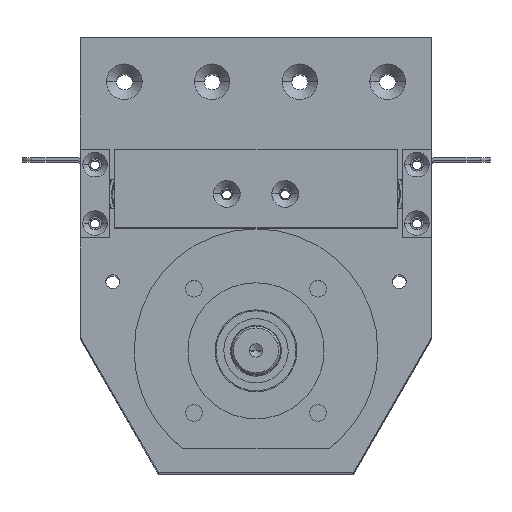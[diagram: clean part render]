
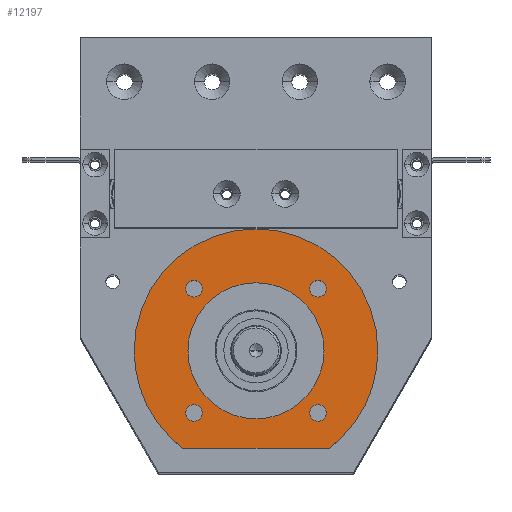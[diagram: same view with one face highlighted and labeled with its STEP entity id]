
A CAD part, top view. The second image highlights one B-rep face of the part: STEP entity #12197.
In plain terms, the highlighted planar face has unit normal (0, 0, 1) as drawn and (-1, 0, 0) by its records, which use the part's own axes.
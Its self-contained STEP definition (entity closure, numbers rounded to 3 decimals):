
#2561 = EDGE_LOOP ( 'NONE', ( #19543, #19545 ) ) ;
#2657 = EDGE_LOOP ( 'NONE', ( #19547, #19549 ) ) ;
#3024 = EDGE_LOOP ( 'NONE', ( #19551, #19553 ) ) ;
#4236 = EDGE_CURVE ( 'NONE', #8213, #9107, #17027, .T. ) ;
#4243 = EDGE_CURVE ( 'NONE', #8945, #16570, #17043, .T. ) ;
#4252 = EDGE_CURVE ( 'NONE', #5598, #9162, #17462, .T. ) ;
#4261 = EDGE_CURVE ( 'NONE', #5629, #9217, #17452, .T. ) ;
#4327 = EDGE_CURVE ( 'NONE', #9075, #5580, #17422, .T. ) ;
#4341 = EDGE_CURVE ( 'NONE', #5650, #8650, #17408, .T. ) ;
#4348 = EDGE_CURVE ( 'NONE', #7459, #5650, #17383, .T. ) ;
#4405 = EDGE_CURVE ( 'NONE', #8650, #9213, #17500, .T. ) ;
#4408 = EDGE_CURVE ( 'NONE', #9107, #8213, #17509, .T. ) ;
#4409 = EDGE_CURVE ( 'NONE', #16570, #8945, #17499, .T. ) ;
#4411 = EDGE_CURVE ( 'NONE', #9162, #5598, #17508, .T. ) ;
#4414 = EDGE_CURVE ( 'NONE', #9217, #5629, #17543, .T. ) ;
#4415 = EDGE_CURVE ( 'NONE', #5580, #9075, #17511, .T. ) ;
#4416 = EDGE_CURVE ( 'NONE', #7459, #9213, #4825, .T. ) ;
#4429 = CARTESIAN_POINT ( 'NONE',  ( 2., -31.82, -31.82 ) ) ;
#4431 = DIRECTION ( 'NONE',  ( 1., 0., 0. ) ) ;
#4433 = DIRECTION ( 'NONE',  ( 0., 0., -1. ) ) ;
#4450 = CARTESIAN_POINT ( 'NONE',  ( 2., -31.82, 31.82 ) ) ;
#4452 = DIRECTION ( 'NONE',  ( 1., 0., 0. ) ) ;
#4453 = DIRECTION ( 'NONE',  ( 0., 0., -1. ) ) ;
#4475 = CARTESIAN_POINT ( 'NONE',  ( 2., 31.82, 31.82 ) ) ;
#4477 = DIRECTION ( 'NONE',  ( 1., 0., 0. ) ) ;
#4479 = DIRECTION ( 'NONE',  ( 0., 0., -1. ) ) ;
#4501 = CARTESIAN_POINT ( 'NONE',  ( 2., 31.82, -31.82 ) ) ;
#4503 = DIRECTION ( 'NONE',  ( 1., 0., 0. ) ) ;
#4504 = DIRECTION ( 'NONE',  ( 0., 0., -1. ) ) ;
#4711 = CARTESIAN_POINT ( 'NONE',  ( 2., 0., 0. ) ) ;
#4712 = DIRECTION ( 'NONE',  ( -1., 0., 0. ) ) ;
#4713 = DIRECTION ( 'NONE',  ( 0., 0., 1. ) ) ;
#4728 = CARTESIAN_POINT ( 'NONE',  ( 2., 0., 0. ) ) ;
#4729 = DIRECTION ( 'NONE',  ( -1., 0., 0. ) ) ;
#4730 = DIRECTION ( 'NONE',  ( 0., 0., 1. ) ) ;
#4738 = CARTESIAN_POINT ( 'NONE',  ( 2., 0., 0. ) ) ;
#4739 = DIRECTION ( 'NONE',  ( -1., 0., 0. ) ) ;
#4740 = DIRECTION ( 'NONE',  ( 0., 0., 1. ) ) ;
#4813 = CARTESIAN_POINT ( 'NONE',  ( 2., 0., 0. ) ) ;
#4814 = DIRECTION ( 'NONE',  ( -1., 0., 0. ) ) ;
#4815 = DIRECTION ( 'NONE',  ( 0., 0., 1. ) ) ;
#4816 = CARTESIAN_POINT ( 'NONE',  ( 2., -31.82, -31.82 ) ) ;
#4817 = DIRECTION ( 'NONE',  ( 1., 0., 0. ) ) ;
#4818 = DIRECTION ( 'NONE',  ( 0., 0., -1. ) ) ;
#4819 = CARTESIAN_POINT ( 'NONE',  ( 2., -31.82, 31.82 ) ) ;
#4820 = DIRECTION ( 'NONE',  ( 1., 0., 0. ) ) ;
#4821 = DIRECTION ( 'NONE',  ( 0., 0., -1. ) ) ;
#4822 = CARTESIAN_POINT ( 'NONE',  ( 2., 31.82, 31.82 ) ) ;
#4823 = DIRECTION ( 'NONE',  ( 1., 0., 0. ) ) ;
#4824 = DIRECTION ( 'NONE',  ( 0., 0., -1. ) ) ;
#4825 = LINE ( 'NONE', #4826, #17590 ) ;
#4826 = CARTESIAN_POINT ( 'NONE',  ( 2., -50., 37.5 ) ) ;
#4827 = CARTESIAN_POINT ( 'NONE',  ( 2., 31.82, -31.82 ) ) ;
#4828 = DIRECTION ( 'NONE',  ( 1., 0., 0. ) ) ;
#4829 = DIRECTION ( 'NONE',  ( 0., 0., -1. ) ) ;
#4830 = CARTESIAN_POINT ( 'NONE',  ( 2., 0., 0. ) ) ;
#4831 = DIRECTION ( 'NONE',  ( -1., 0., 0. ) ) ;
#4832 = DIRECTION ( 'NONE',  ( 0., 0., 1. ) ) ;
#4833 = DIRECTION ( 'NONE',  ( 0., 0., -1. ) ) ;
#5580 = VERTEX_POINT ( 'NONE', #10930 ) ;
#5598 = VERTEX_POINT ( 'NONE', #10946 ) ;
#5629 = VERTEX_POINT ( 'NONE', #10977 ) ;
#5650 = VERTEX_POINT ( 'NONE', #10998 ) ;
#7459 = VERTEX_POINT ( 'NONE', #11230 ) ;
#7556 = EDGE_LOOP ( 'NONE', ( #19555, #19557, #19559, #19561 ) ) ;
#7855 = EDGE_LOOP ( 'NONE', ( #19539, #19541 ) ) ;
#8213 = VERTEX_POINT ( 'NONE', #11275 ) ;
#8650 = VERTEX_POINT ( 'NONE', #11297 ) ;
#8945 = VERTEX_POINT ( 'NONE', #11326 ) ;
#9075 = VERTEX_POINT ( 'NONE', #11363 ) ;
#9107 = VERTEX_POINT ( 'NONE', #11365 ) ;
#9162 = VERTEX_POINT ( 'NONE', #11378 ) ;
#9213 = VERTEX_POINT ( 'NONE', #11389 ) ;
#9216 = EDGE_LOOP ( 'NONE', ( #19535, #19537 ) ) ;
#9217 = VERTEX_POINT ( 'NONE', #11390 ) ;
#10930 = CARTESIAN_POINT ( 'NONE',  ( 2., 0., -34.9 ) ) ;
#10946 = CARTESIAN_POINT ( 'NONE',  ( 2., 31.82, 36.07 ) ) ;
#10977 = CARTESIAN_POINT ( 'NONE',  ( 2., 31.82, -27.57 ) ) ;
#10998 = CARTESIAN_POINT ( 'NONE',  ( 2., 0., 62.5 ) ) ;
#11230 = CARTESIAN_POINT ( 'NONE',  ( 2., -50., 37.5 ) ) ;
#11275 = CARTESIAN_POINT ( 'NONE',  ( 2., -31.82, -27.57 ) ) ;
#11297 = CARTESIAN_POINT ( 'NONE',  ( 2., 0., -62.5 ) ) ;
#11326 = CARTESIAN_POINT ( 'NONE',  ( 2., -31.82, 36.07 ) ) ;
#11363 = CARTESIAN_POINT ( 'NONE',  ( 2., 0., 34.9 ) ) ;
#11365 = CARTESIAN_POINT ( 'NONE',  ( 2., -31.82, -36.07 ) ) ;
#11378 = CARTESIAN_POINT ( 'NONE',  ( 2., 31.82, 27.57 ) ) ;
#11389 = CARTESIAN_POINT ( 'NONE',  ( 2., -50., -37.5 ) ) ;
#11390 = CARTESIAN_POINT ( 'NONE',  ( 2., 31.82, -36.07 ) ) ;
#12197 = ADVANCED_FACE ( 'NONE', ( #18479, #18483, #18485, #18487, #18481, #18482 ), #18489, .F. ) ;
#12407 = AXIS2_PLACEMENT_3D ( 'NONE', #18486, #18490, #18491 ) ;
#16570 = VERTEX_POINT ( 'NONE', #18913 ) ;
#17027 = CIRCLE ( 'NONE', #17082, 4.25 ) ;
#17038 = AXIS2_PLACEMENT_3D ( 'NONE', #4830, #4831, #4832 ) ;
#17043 = CIRCLE ( 'NONE', #17372, 4.25 ) ;
#17082 = AXIS2_PLACEMENT_3D ( 'NONE', #4429, #4431, #4433 ) ;
#17372 = AXIS2_PLACEMENT_3D ( 'NONE', #4450, #4452, #4453 ) ;
#17378 = AXIS2_PLACEMENT_3D ( 'NONE', #4475, #4477, #4479 ) ;
#17383 = CIRCLE ( 'NONE', #17386, 62.5 ) ;
#17386 = AXIS2_PLACEMENT_3D ( 'NONE', #4738, #4739, #4740 ) ;
#17403 = AXIS2_PLACEMENT_3D ( 'NONE', #4728, #4729, #4730 ) ;
#17408 = CIRCLE ( 'NONE', #17403, 62.5 ) ;
#17415 = AXIS2_PLACEMENT_3D ( 'NONE', #4711, #4712, #4713 ) ;
#17422 = CIRCLE ( 'NONE', #17415, 34.9 ) ;
#17452 = CIRCLE ( 'NONE', #17472, 4.25 ) ;
#17462 = CIRCLE ( 'NONE', #17378, 4.25 ) ;
#17472 = AXIS2_PLACEMENT_3D ( 'NONE', #4501, #4503, #4504 ) ;
#17497 = AXIS2_PLACEMENT_3D ( 'NONE', #4813, #4814, #4815 ) ;
#17499 = CIRCLE ( 'NONE', #17510, 4.25 ) ;
#17500 = CIRCLE ( 'NONE', #17497, 62.5 ) ;
#17506 = AXIS2_PLACEMENT_3D ( 'NONE', #4816, #4817, #4818 ) ;
#17508 = CIRCLE ( 'NONE', #17539, 4.25 ) ;
#17509 = CIRCLE ( 'NONE', #17506, 4.25 ) ;
#17510 = AXIS2_PLACEMENT_3D ( 'NONE', #4819, #4820, #4821 ) ;
#17511 = CIRCLE ( 'NONE', #17038, 34.9 ) ;
#17535 = AXIS2_PLACEMENT_3D ( 'NONE', #4827, #4828, #4829 ) ;
#17539 = AXIS2_PLACEMENT_3D ( 'NONE', #4822, #4823, #4824 ) ;
#17543 = CIRCLE ( 'NONE', #17535, 4.25 ) ;
#17590 = VECTOR ( 'NONE', #4833, 1000. ) ;
#18479 = FACE_BOUND ( 'NONE', #9216, .T. ) ;
#18481 = FACE_BOUND ( 'NONE', #3024, .T. ) ;
#18482 = FACE_OUTER_BOUND ( 'NONE', #7556, .T. ) ;
#18483 = FACE_BOUND ( 'NONE', #7855, .T. ) ;
#18485 = FACE_BOUND ( 'NONE', #2561, .T. ) ;
#18486 = CARTESIAN_POINT ( 'NONE',  ( 2., 62.5, 0. ) ) ;
#18487 = FACE_BOUND ( 'NONE', #2657, .T. ) ;
#18489 = PLANE ( 'NONE',  #12407 ) ;
#18490 = DIRECTION ( 'NONE',  ( 1., 0., 0. ) ) ;
#18491 = DIRECTION ( 'NONE',  ( 0., 0., -1. ) ) ;
#18913 = CARTESIAN_POINT ( 'NONE',  ( 2., -31.82, 27.57 ) ) ;
#19535 = ORIENTED_EDGE ( 'NONE', *, *, #4408, .T. ) ;
#19537 = ORIENTED_EDGE ( 'NONE', *, *, #4236, .T. ) ;
#19539 = ORIENTED_EDGE ( 'NONE', *, *, #4409, .T. ) ;
#19541 = ORIENTED_EDGE ( 'NONE', *, *, #4243, .T. ) ;
#19543 = ORIENTED_EDGE ( 'NONE', *, *, #4411, .T. ) ;
#19545 = ORIENTED_EDGE ( 'NONE', *, *, #4252, .T. ) ;
#19547 = ORIENTED_EDGE ( 'NONE', *, *, #4414, .T. ) ;
#19549 = ORIENTED_EDGE ( 'NONE', *, *, #4261, .T. ) ;
#19551 = ORIENTED_EDGE ( 'NONE', *, *, #4327, .F. ) ;
#19553 = ORIENTED_EDGE ( 'NONE', *, *, #4415, .F. ) ;
#19555 = ORIENTED_EDGE ( 'NONE', *, *, #4348, .T. ) ;
#19557 = ORIENTED_EDGE ( 'NONE', *, *, #4341, .T. ) ;
#19559 = ORIENTED_EDGE ( 'NONE', *, *, #4405, .T. ) ;
#19561 = ORIENTED_EDGE ( 'NONE', *, *, #4416, .F. ) ;
